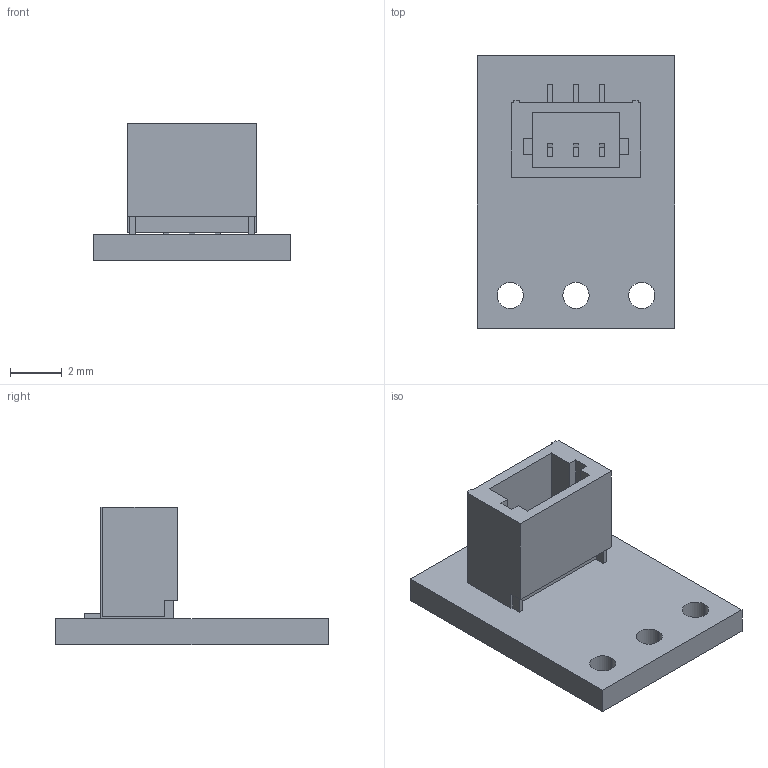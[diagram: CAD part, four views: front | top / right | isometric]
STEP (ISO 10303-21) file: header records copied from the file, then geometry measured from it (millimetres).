
FILE_DESCRIPTION (( 'STEP AP214' ), '1' );
FILE_NAME ('con05a_top.step', '2025-06-12T20:48:36', ( '' ), ( '' ), 'SwSTEP 2.0', 'SolidWorks 2025', '' );
FILE_SCHEMA (( 'AUTOMOTIVE_DESIGN' ));
Length unit declared in the file: millimetre
Products named in the file (1): con05a_top
Bounding box: 7.62 x 10.54 x 5.34 mm (x, y, z)
Volume: 117.5 mm3; surface area: 342.4 mm2
Topology: 1 solids, 1 shells, 464 faces, 1260 edges, 840 vertices
Faces by surface type: plane 270, bspline 188, cylinder 6
Entity records: 26494 total; most frequent: CARTESIAN_POINT 11025, ORIENTED_EDGE 2520, DIRECTION 1450, EDGE_CURVE 1260, LINE 872, VECTOR 872, VERTEX_POINT 840, EDGE_LOOP 520
